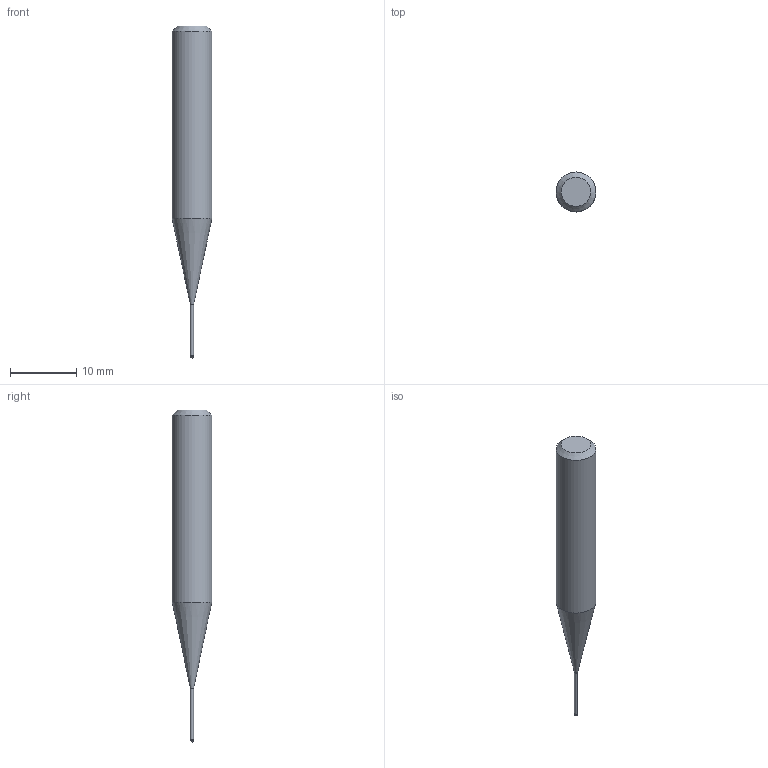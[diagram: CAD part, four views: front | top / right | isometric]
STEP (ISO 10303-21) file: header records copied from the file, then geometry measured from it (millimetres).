
FILE_DESCRIPTION((''),'2;1');
FILE_NAME('C:\Users\nsx150\AppData\Local\Temp\Mastercam 2021\3SYKECWX22\TEMP.step','2021-04-22T10:00:33',(''),(''),'STEP Write','Mastercam 2021 ... CNC Software, Inc.','');
FILE_SCHEMA(('AUTOMOTIVE_DESIGN'));
Length unit declared in the file: millimetre
Products named in the file (1): None
Bounding box: 6 x 6 x 50 mm (x, y, z)
Volume: 947.8 mm3; surface area: 711.8 mm2
Topology: 2 solids, 2 shells, 9 faces, 14 edges, 8 vertices
Faces by surface type: plane 3, cylinder 3, cone 2, sphere 1
Full cylindrical faces by diameter (mm): 0.46 x1, 0.5 x1, 6 x1
Entity records: 211 total; most frequent: DIRECTION 36, CARTESIAN_POINT 25, AXIS2_PLACEMENT_3D 18, ORIENTED_EDGE 14, EDGE_LOOP 14, STYLED_ITEM 12, ADVANCED_FACE 9, FACE_BOUND 8
